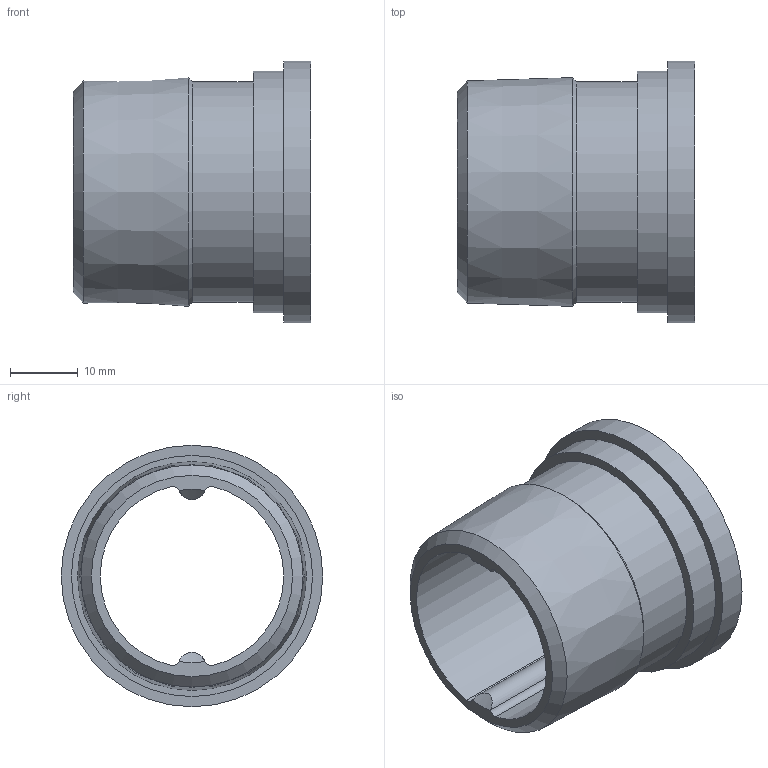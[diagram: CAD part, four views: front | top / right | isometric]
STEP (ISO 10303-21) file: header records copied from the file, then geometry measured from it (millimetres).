
FILE_DESCRIPTION(/* description */ (''),/* implementation_level */ '2;1');
FILE_NAME(/* name */ 'C:\Users\gomulka\Desktop\Nowy folder (2)\14371_1-114(2).stp',/* time_stamp */ '2017-10-19T09:50:53+02:00',/* author */ ('gomulka'),/* organization */ (''),/* preprocessor_version */ 'ST-DEVELOPER v15.6',/* originating_system */ 'Autodesk Inventor 2015',/* authorisation */ '');
FILE_SCHEMA (('CONFIG_CONTROL_DESIGN','AUTOMOTIVE_DESIGN { 1 0 10303 214 3 1 1 }'));
Length unit declared in the file: millimetre
Products named in the file (1): 14371_1-114(2)
Bounding box: 35 x 38.5 x 38.5 mm (x, y, z)
Volume: 12027.2 mm3; surface area: 7948 mm2
Topology: 1 solids, 1 shells, 22 faces, 55 edges, 37 vertices
Faces by surface type: cylinder 11, cone 7, plane 4
Full cylindrical faces by diameter (mm): 32.5 x1, 35.5 x1, 38.5 x1
Entity records: 734 total; most frequent: CARTESIAN_POINT 205, DIRECTION 104, ORIENTED_EDGE 98, EDGE_CURVE 49, AXIS2_PLACEMENT_3D 48, VERTEX_POINT 37, EDGE_LOOP 32, CIRCLE 25
